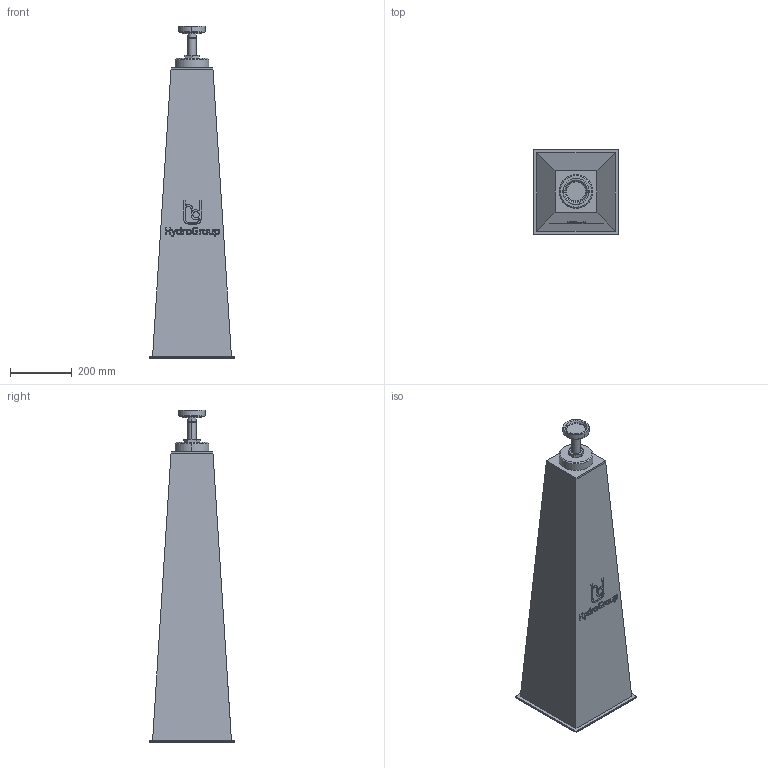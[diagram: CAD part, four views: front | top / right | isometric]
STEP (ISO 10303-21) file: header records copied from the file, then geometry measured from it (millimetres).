
FILE_DESCRIPTION(('STEP AP214'),'1');
FILE_NAME('RSRFE-III-05-V0.stp','2018-06-29T07:13:16',(' '),(' '),'Spatial InterOp 3D',' ',' ');
FILE_SCHEMA(('automotive_design'));
Length unit declared in the file: millimetre
Products named in the file (6): 1; 2; 3; 4; 5; 6
Bounding box: 276.01 x 276.01 x 1075.99 mm (x, y, z)
Volume: 37832630 mm3; surface area: 1079504.4 mm2
Topology: 6 solids, 6 shells, 226 faces, 557 edges, 362 vertices
Faces by surface type: plane 135, cylinder 33, cone 24, extrusion 24, torus 10
Entity records: 9108 total; most frequent: CARTESIAN_POINT 1825, ORIENTED_EDGE 1114, DIRECTION 1055, EDGE_CURVE 557, VECTOR 403, LINE 379, VERTEX_POINT 362, AXIS2_PLACEMENT_3D 326
